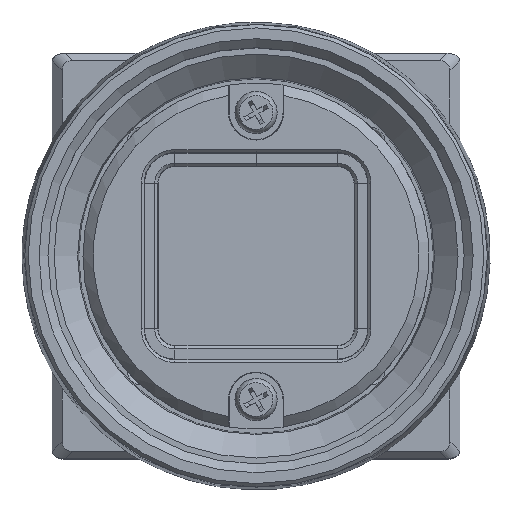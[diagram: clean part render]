
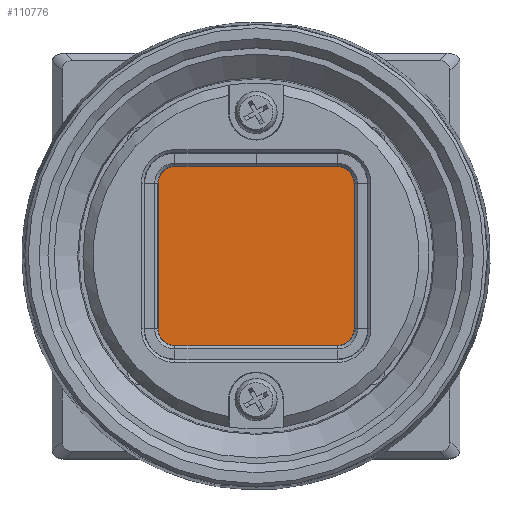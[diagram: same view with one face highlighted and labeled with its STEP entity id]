
A CAD part, top view. The second image highlights one B-rep face of the part: STEP entity #110776.
In plain terms, the highlighted planar face has unit normal (0, 0, 1).
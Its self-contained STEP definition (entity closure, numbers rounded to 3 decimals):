
#1232 = DIRECTION ( 'NONE',  ( 0., -1., 0. ) ) ;
#2769 = EDGE_CURVE ( 'NONE', #80320, #21119, #76166, .T. ) ;
#3628 = ORIENTED_EDGE ( 'NONE', *, *, #132047, .T. ) ;
#20193 = CARTESIAN_POINT ( 'NONE',  ( -7., -7., 6. ) ) ;
#21119 = VERTEX_POINT ( 'NONE', #58529 ) ;
#21580 = DIRECTION ( 'NONE',  ( 0., 1., 0. ) ) ;
#31289 = DIRECTION ( 'NONE',  ( -1., 0., 0. ) ) ;
#36420 = CARTESIAN_POINT ( 'NONE',  ( -7., 7., 6. ) ) ;
#38759 = VERTEX_POINT ( 'NONE', #36420 ) ;
#38900 = DIRECTION ( 'NONE',  ( 0., 0., -1. ) ) ;
#38981 = EDGE_CURVE ( 'NONE', #38759, #80320, #132044, .T. ) ;
#39269 = ORIENTED_EDGE ( 'NONE', *, *, #2769, .T. ) ;
#51607 = CARTESIAN_POINT ( 'NONE',  ( -7., 7., 6. ) ) ;
#53017 = FACE_OUTER_BOUND ( 'NONE', #73369, .T. ) ;
#56126 = VECTOR ( 'NONE', #31289, 1000. ) ;
#58529 = CARTESIAN_POINT ( 'NONE',  ( 7., -7., 6. ) ) ;
#60967 = CARTESIAN_POINT ( 'NONE',  ( 0., 0., 6. ) ) ;
#72888 = CARTESIAN_POINT ( 'NONE',  ( -7., -7., 6. ) ) ;
#73369 = EDGE_LOOP ( 'NONE', ( #126287, #3628, #124715, #39269 ) ) ;
#76166 = LINE ( 'NONE', #77988, #103671 ) ;
#77988 = CARTESIAN_POINT ( 'NONE',  ( -7., -7., 6. ) ) ;
#78795 = AXIS2_PLACEMENT_3D ( 'NONE', #60967, #38900, #133570 ) ;
#80320 = VERTEX_POINT ( 'NONE', #20193 ) ;
#80441 = PLANE ( 'NONE',  #78795 ) ;
#83917 = EDGE_CURVE ( 'NONE', #21119, #86607, #101448, .T. ) ;
#86607 = VERTEX_POINT ( 'NONE', #132828 ) ;
#86903 = VECTOR ( 'NONE', #21580, 1000. ) ;
#88407 = DIRECTION ( 'NONE',  ( 1., 0., 0. ) ) ;
#101413 = LINE ( 'NONE', #51607, #56126 ) ;
#101448 = LINE ( 'NONE', #112807, #86903 ) ;
#103671 = VECTOR ( 'NONE', #88407, 1000. ) ;
#104672 = VECTOR ( 'NONE', #1232, 1000. ) ;
#110776 = ADVANCED_FACE ( 'NONE', ( #53017 ), #80441, .F. ) ;
#112807 = CARTESIAN_POINT ( 'NONE',  ( 7., -7., 6. ) ) ;
#124715 = ORIENTED_EDGE ( 'NONE', *, *, #38981, .T. ) ;
#126287 = ORIENTED_EDGE ( 'NONE', *, *, #83917, .T. ) ;
#132044 = LINE ( 'NONE', #72888, #104672 ) ;
#132047 = EDGE_CURVE ( 'NONE', #86607, #38759, #101413, .T. ) ;
#132828 = CARTESIAN_POINT ( 'NONE',  ( 7., 7., 6. ) ) ;
#133570 = DIRECTION ( 'NONE',  ( -1., 0., 0. ) ) ;
